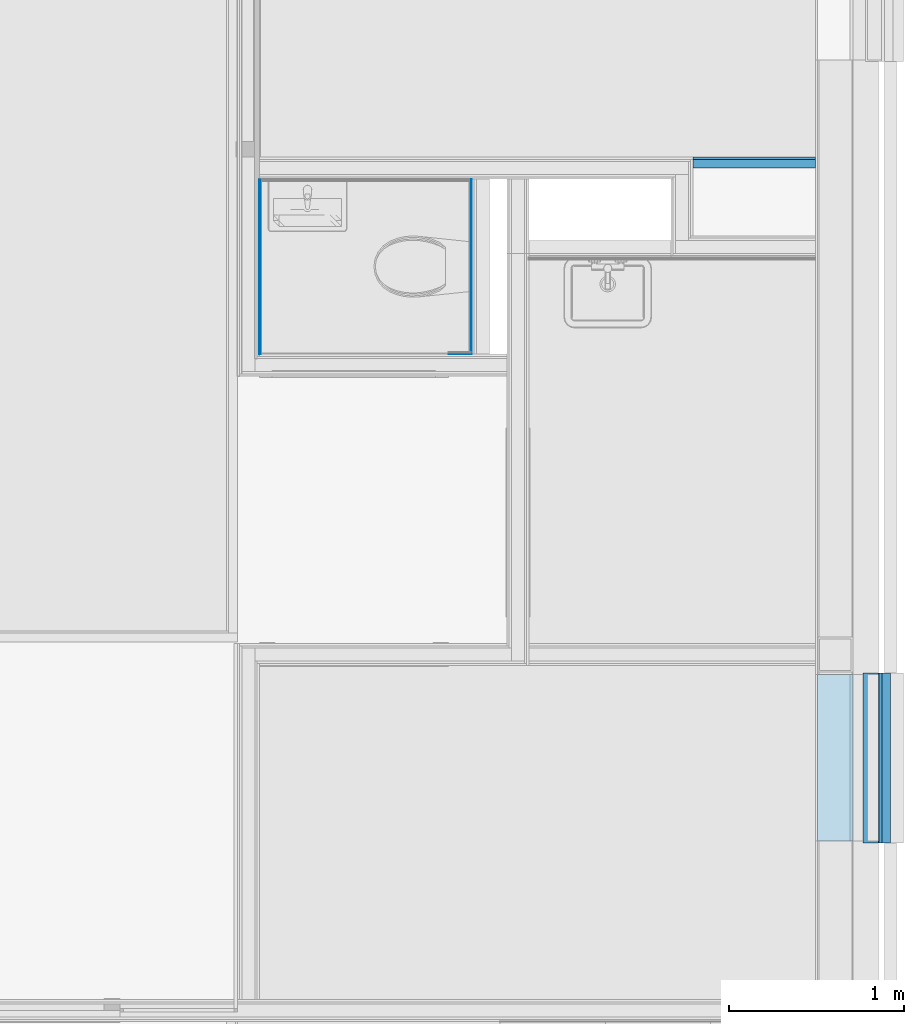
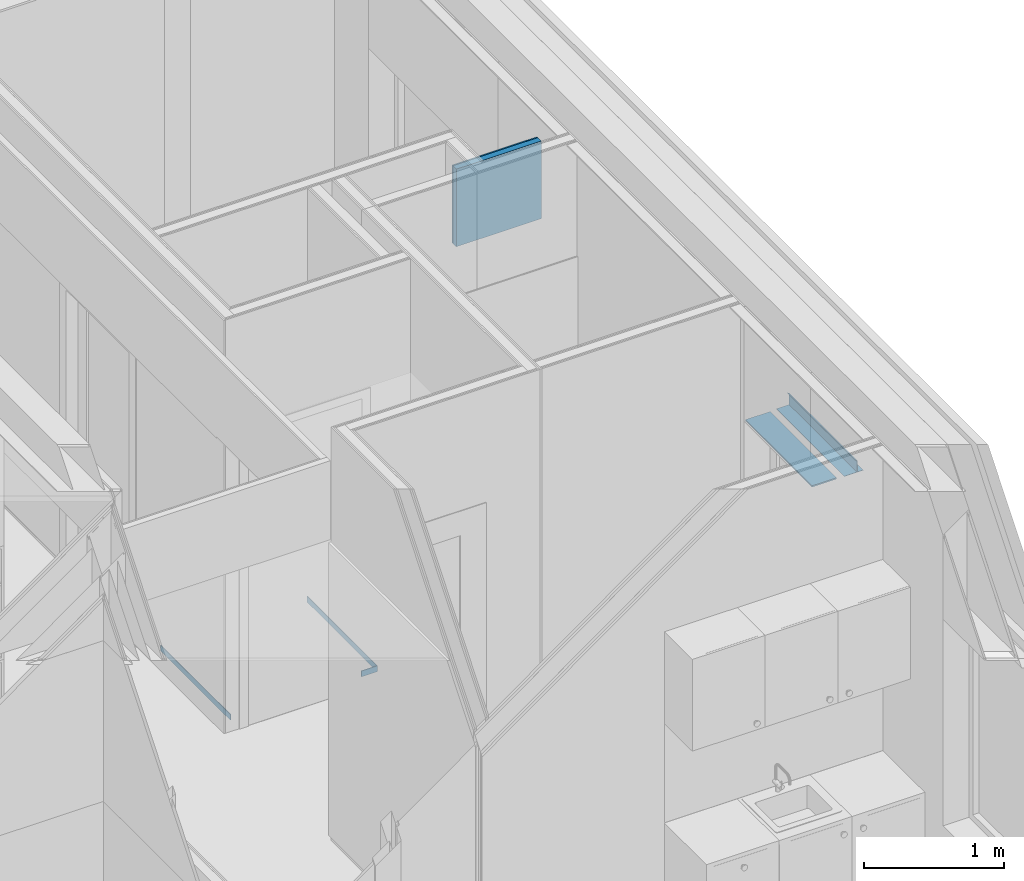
# One storey, part 98 of 137: 8 building element parts, 6 elements without a shape of their own.
"""IFC2X3 building model written with IfcOpenShell, lengths in millimetres."""

from ifc_helpers import new_model, entity, si_unit, converted_unit, derived_unit, money_unit, direction, frame, origin_with_axes, place, context, subcontext, project, spatial, faceted_brep, material, type_object, element, aggregate, save


model = new_model("IFC2X3")

# Units and contexts
model_context = context("Model", 3, precision=0.01, world=origin_with_axes(), true_north=direction((0.0, 1.0)))
body_context = subcontext(model_context, "Body", "Model", "MODEL_VIEW")
ifc_project = project(units=[si_unit("LENGTHUNIT", "METRE", prefix="MILLI"), si_unit("AREAUNIT", "SQUARE_METRE"), si_unit("VOLUMEUNIT", "CUBIC_METRE"), converted_unit("PLANEANGLEUNIT", "DEGREE", entity("IfcPlaneAngleMeasure", 0.0174532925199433), si_unit("PLANEANGLEUNIT", "RADIAN"), dimensions=[0, 0, 0, 0, 0, 0, 0]), money_unit("EUR"), converted_unit("TIMEUNIT", "Year", entity("IfcTimeMeasure", 31556926.0), si_unit("TIMEUNIT", "SECOND"), dimensions=[0, 0, 1, 0, 0, 0, 0]), si_unit("MASSUNIT", "GRAM", prefix="KILO"), si_unit("THERMODYNAMICTEMPERATUREUNIT", "DEGREE_CELSIUS"), si_unit("LUMINOUSINTENSITYUNIT", "LUMEN"), si_unit("ENERGYUNIT", "JOULE", prefix="MEGA"), derived_unit("THERMALCONDUCTANCEUNIT", [(si_unit("POWERUNIT", "WATT"), 1), (si_unit("LENGTHUNIT", "METRE"), -1), (si_unit("THERMODYNAMICTEMPERATUREUNIT", "KELVIN"), -1)]), derived_unit("SPECIFICHEATCAPACITYUNIT", [(si_unit("ENERGYUNIT", "JOULE"), 1), (si_unit("MASSUNIT", "GRAM", prefix="KILO"), -1), (si_unit("THERMODYNAMICTEMPERATUREUNIT", "KELVIN"), -1)]), derived_unit("MASSDENSITYUNIT", [(si_unit("MASSUNIT", "GRAM", prefix="KILO"), 1), (si_unit("VOLUMEUNIT", "CUBIC_METRE"), -1)])], contexts=[model_context])

# Site, building, storey
site_placement = place(None, origin_with_axes())
site = spatial("IfcSite", under=ifc_project, at=site_placement, Name="Site", CompositionType="ELEMENT")
building_placement = place(site_placement, origin_with_axes())
building = spatial("IfcBuilding", under=site, at=building_placement, Name="Naam gebouw", CompositionType="ELEMENT")
storey_placement = place(building_placement, frame((0.0, 0.0, 3960.0), z_axis=(0.0, 0.0, 1.0), x_axis=(1.0, 0.0, 0.0)))
storey = spatial("IfcBuildingStorey", under=building, at=storey_placement, Name="1e verdieping", CompositionType="ELEMENT", Elevation=3960.0)

# Beam, building element parts
beam_type_1 = type_object("IfcBeamType", Name="41 Latei/geveldrager 158 x 112", PredefinedType="BEAM")
beam_1_placement = place(storey_placement, frame((30064.99999999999, 10705.00008685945, 2610.0), z_axis=(0.0, 0.0, 1.0), x_axis=(-1.0, 0.0, 0.0)))
beam_1 = element("IfcBeam", 1, at=beam_1_placement, inside=storey, type_object=beam_type_1, Name="_Regenwaterafvoer-x", ObjectType="BEAM")
ifc_material_1 = material(Name="Metaal - Staal C")
building_element_part_1_placement = place(beam_1_placement, origin_with_axes())
building_element_part_1 = element("IfcBuildingElementPart", 2, at=building_element_part_1_placement, material=ifc_material_1, Name="Metaal - Staal C", context=body_context, shape_type="Brep", body=[
    faceted_brep([(3.000000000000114, 969.9999999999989, -3.000000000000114), (108.0000000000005, 969.9999999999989, -3.000000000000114), (108.0000000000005, 0.0, -3.000000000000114), (3.000000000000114, 0.0, -3.000000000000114), (3.000000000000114, 969.9999999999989, 0.0), (108.0000000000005, 969.9999999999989, 0.0), (108.0000000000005, 0.0, 0.0), (3.000000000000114, 0.0, 0.0)], [[[0, 1, 2, 3]], [[0, 4, 5, 1]], [[1, 5, 6, 2]], [[3, 2, 6, 7]], [[4, 0, 3, 7]], [[5, 4, 7, 6]]]),
])
building_element_part_2_placement = place(beam_1_placement, origin_with_axes())
building_element_part_2 = element("IfcBuildingElementPart", 3, at=building_element_part_2_placement, material=ifc_material_1, Name="Metaal - Staal C", context=body_context, shape_type="Brep", body=[
    faceted_brep([(-50.00000000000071, 969.9999999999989, 6.55651533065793e-07), (-50.00000000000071, 969.9999999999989, -3.000000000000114), (-50.00000000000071, 0.0, -3.000000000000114), (-50.00000000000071, 0.0, 6.55651533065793e-07), (-5.9603877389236e-08, 969.9999999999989, 6.55651533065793e-07), (-5.9603877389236e-08, 969.9999999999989, 99.3417707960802), (16.54654975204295, 969.9999999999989, 108.8949262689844), (18.04655007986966, 969.9999999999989, 106.2968498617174), (3.000000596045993, 969.9999999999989, 96.99999988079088), (3.000000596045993, 969.9999999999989, 6.55651533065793e-07), (3.000000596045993, 969.9999999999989, -3.000000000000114), (3.000000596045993, 0.0, -3.000000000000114), (3.000000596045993, 0.0, 6.55651533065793e-07), (3.000000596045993, 0.0, 96.99999988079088), (18.04655007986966, 0.0, 106.2968498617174), (16.54654975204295, 0.0, 108.8949262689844), (-5.9603877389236e-08, 0.0, 99.3417707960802), (-5.9603877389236e-08, 0.0, 6.55651533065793e-07)], [[[0, 1, 2, 3]], [[0, 4, 5, 6, 7, 8, 9, 10, 1]], [[1, 10, 11, 2]], [[3, 2, 11, 12, 13, 14, 15, 16, 17]], [[4, 0, 3, 17]], [[5, 4, 17, 16]], [[6, 5, 16, 15]], [[7, 6, 15, 14]], [[8, 7, 14, 13]], [[9, 8, 13, 12]], [[10, 9, 12, 11]]]),
])
aggregate(beam_1, [building_element_part_1, building_element_part_2])

# Proxy, building element part
building_element_proxy_type_1 = type_object("IfcBuildingElementProxyType", Name="42 Tegelwerk 2600+ 12 x 2600", PredefinedType="NOTDEFINED")
proxy_1_placement = place(storey_placement, frame((27590.99998676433, 12544.9923858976, 0.0), z_axis=(0.0, 0.0, 1.0), x_axis=(0.999999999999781, 6.618815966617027e-07, 0.0)))
proxy_1 = element("IfcBuildingElementProxy", 4, at=proxy_1_placement, inside=storey, type_object=building_element_proxy_type_1, Name="_Wand-x")
ifc_material_2 = material(Name="48 vloeivloer Bolidt")
building_element_part_3_placement = place(proxy_1_placement, origin_with_axes())
building_element_part_3 = element("IfcBuildingElementPart", 5, at=building_element_part_3_placement, material=ifc_material_2, Name="48 vloeivloer Bolidt", context=body_context, shape_type="Brep", body=[
    faceted_brep([(133.9981574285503, -20.00007229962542, 50.00000596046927), (133.9981607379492, -15.00008720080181, 50.00000596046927), (-9.928221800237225e-06, -14.99999850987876, 50.00000596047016), (-1.323762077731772e-05, -19.99998360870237, 50.00000596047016), (133.9981607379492, -15.00008720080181, 0.0), (133.9981574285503, -20.00007229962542, 0.0), (-9.928221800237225e-06, -14.99999850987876, 0.0), (-1.323762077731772e-05, -19.99998360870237, 0.0)], [[[0, 1, 2, 3]], [[4, 1, 0, 5]], [[1, 4, 6, 2]], [[2, 6, 7, 3]], [[5, 0, 3, 7]], [[4, 5, 7, 6]]]),
])
aggregate(proxy_1, [building_element_part_3])

proxy_2_placement = place(storey_placement, frame((27704.99814997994, 12544.99246135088, 0.0), z_axis=(0.0, 0.0, 1.0), x_axis=(4.734245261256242e-08, 0.9999999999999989, 0.0)))
proxy_2 = element("IfcBuildingElementProxy", 6, at=proxy_2_placement, inside=storey, type_object=building_element_proxy_type_1, Name="_Wand-x")
building_element_part_4_placement = place(proxy_2_placement, origin_with_axes())
building_element_part_4 = element("IfcBuildingElementPart", 7, at=building_element_part_4_placement, material=ifc_material_2, Name="48 vloeivloer Bolidt", context=body_context, shape_type="Brep", body=[
    faceted_brep([(-15.00007325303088, -14.9999992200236, 50.00000596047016), (-15.00007301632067, -19.9999843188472, 50.00000596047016), (979.9989872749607, -19.99993721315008, 50.00000596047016), (979.9990150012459, -14.99995211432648, 50.00000596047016), (-15.00007301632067, -19.9999843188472, 0.0), (-15.00007325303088, -14.9999992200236, 0.0), (979.9989872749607, -19.99993721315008, 0.0), (979.9990150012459, -14.99995211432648, 0.0)], [[[0, 1, 2, 3]], [[4, 1, 0, 5]], [[1, 4, 6, 2]], [[3, 2, 6, 7]], [[5, 0, 3, 7]], [[4, 5, 7, 6]]]),
])
aggregate(proxy_2, [building_element_part_4])

proxy_3_placement = place(storey_placement, frame((26531.00000000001, 13504.99811780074, 0.0), z_axis=(0.0, 0.0, 1.0), x_axis=(0.0, -1.0, 0.0)))
proxy_3 = element("IfcBuildingElementProxy", 8, at=proxy_3_placement, inside=storey, type_object=building_element_proxy_type_1, Name="_Wand-x")
building_element_part_5_placement = place(proxy_3_placement, origin_with_axes())
building_element_part_5 = element("IfcBuildingElementPart", 9, at=building_element_part_5_placement, material=ifc_material_2, Name="48 vloeivloer Bolidt", context=body_context, shape_type="Brep", body=[
    faceted_brep([(-15.00008239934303, -14.99999850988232, 0.0), (-15.00008239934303, -14.99999850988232, 50.00000596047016), (980.0064467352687, -14.99999850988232, 50.00000596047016), (980.0064467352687, -14.99999850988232, 0.0), (-15.00011036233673, -19.99998360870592, 50.00000596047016), (-15.00011036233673, -19.99998360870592, 0.0), (980.0064467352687, -19.99998360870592, 50.00000596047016), (980.0064467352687, -19.99998360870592, 0.0)], [[[0, 1, 2, 3]], [[4, 1, 0, 5]], [[1, 4, 6, 2]], [[6, 7, 3, 2]], [[5, 0, 3, 7]], [[4, 5, 7, 6]]]),
])
aggregate(proxy_3, [building_element_part_5])

# Beam, building element part
beam_type_2 = type_object("IfcBeamType", Name="31 HSB boven kozijnen 214 x 1000", PredefinedType="BEAM")
beam_2_placement = place(storey_placement, frame((29685.99999999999, 10695.00011055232, 2600.000000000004), z_axis=(0.0, 0.0, 1.0), x_axis=(-1.0, 0.0, 0.0)))
beam_2 = element("IfcBeam", 10, at=beam_2_placement, inside=storey, type_object=beam_type_2, Name="28_Balk-x", ObjectType="BEAM")
ifc_material_3 = material(Name="Gipsplaat")
building_element_part_6_placement = place(beam_2_placement, origin_with_axes())
building_element_part_6 = element("IfcBuildingElementPart", 11, at=building_element_part_6_placement, material=ifc_material_3, Name="Gipsplaat", context=body_context, shape_type="Brep", body=[
    faceted_brep([(-214.0000025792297, 950.000000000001, 12.00000596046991), (-214.0000025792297, 950.000000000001, 0.0), (-214.0000025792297, 0.0, 0.0), (-214.0000025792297, 0.0, 12.00000596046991), (-11.99999661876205, 950.000000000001, 12.00000596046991), (-11.99999661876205, 950.000000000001, 0.0), (-11.99999661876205, 0.0, 0.0), (-11.99999661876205, 0.0, 12.00000596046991)], [[[0, 1, 2, 3]], [[0, 4, 5, 1]], [[1, 5, 6, 2]], [[3, 2, 6, 7]], [[4, 0, 3, 7]], [[5, 4, 7, 6]]]),
])
aggregate(beam_2, [building_element_part_6])

# Proxy, building element parts
building_element_proxy_type_2 = type_object("IfcBuildingElementProxyType", Name="22 Metal stud 62.5 plafond 63", PredefinedType="NOTDEFINED")
proxy_4_placement = place(storey_placement, frame((29685.99999999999, 13650.00960861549, 2600.0), z_axis=(0.0, 0.0, 1.0), x_axis=(-0.9999999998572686, -1.689564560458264e-05, 0.0)))
proxy_4 = element("IfcBuildingElementProxy", 12, at=proxy_4_placement, inside=storey, type_object=building_element_proxy_type_2, Name="_Wand-x")
ifc_material_4 = material(Name="ALG - LICHTE SCHEIDINGSWAND")
building_element_part_7_placement = place(proxy_4_placement, origin_with_axes())
building_element_part_7 = element("IfcBuildingElementPart", 13, at=building_element_part_7_placement, material=ifc_material_4, Name="ALG - LICHTE SCHEIDINGSWAND", context=body_context, shape_type="Brep", body=[
    faceted_brep([(0.0, 62.5, 11.99999999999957), (0.0, 12.49999999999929, 11.99999999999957), (0.0, 12.49999999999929, 688.0000000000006), (0.0, 62.5, 688.0000000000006), (700.0000001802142, 12.49999999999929, 11.99999999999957), (700.0000001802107, 62.5, 11.99999999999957), (700.0000001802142, 12.49999999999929, 688.0000000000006), (700.0000001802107, 62.5, 688.0000000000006)], [[[0, 1, 2, 3]], [[4, 1, 0, 5]], [[1, 4, 6, 2]], [[2, 6, 7, 3]], [[5, 0, 3, 7]], [[4, 5, 7, 6]]]),
])
building_element_part_8_placement = place(proxy_4_placement, origin_with_axes())
building_element_part_8 = element("IfcBuildingElementPart", 14, at=building_element_part_8_placement, material=ifc_material_3, Name="Gipsplaat", context=body_context, shape_type="Brep", body=[
    faceted_brep([(0.0, 12.49999999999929, 11.99999999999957), (0.0, 0.0, 11.99999999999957), (0.0, 0.0, 688.0000000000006), (0.0, 12.49999999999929, 688.0000000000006), (700.0000001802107, 0.0, 11.99999999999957), (700.0000001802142, 12.49999999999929, 11.99999999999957), (700.0000001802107, 0.0, 688.0000000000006), (700.0000001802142, 12.49999999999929, 688.0000000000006)], [[[0, 1, 2, 3]], [[4, 1, 0, 5]], [[1, 4, 6, 2]], [[2, 6, 7, 3]], [[5, 0, 3, 7]], [[4, 5, 7, 6]]]),
])
aggregate(proxy_4, [building_element_part_7, building_element_part_8])

save(model, "model.ifc")
